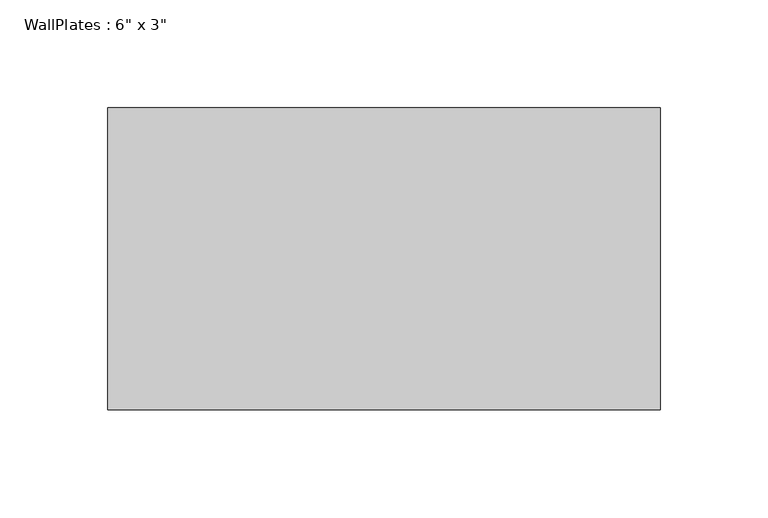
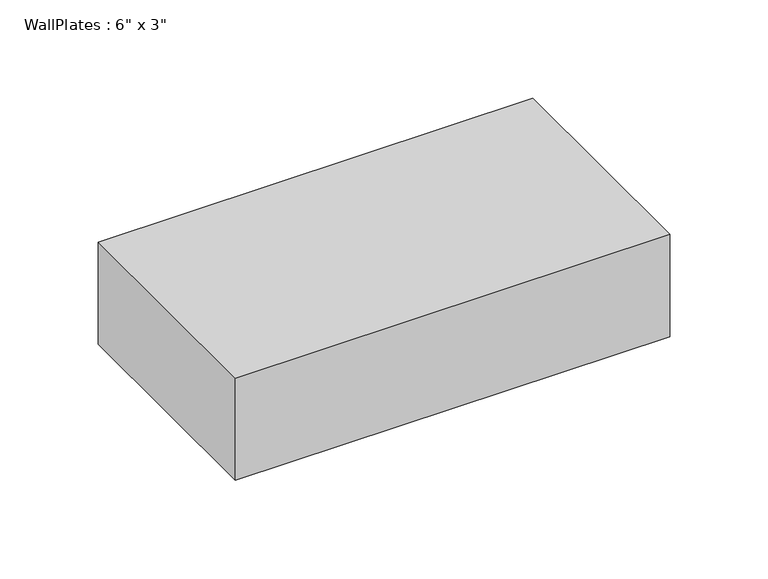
"""IFC4 building model written with IfcOpenShell, lengths in millimetres: beam geometry."""

import ifcopenshell
import ifcopenshell.guid

model = None  # the IFC model being written
_history = None  # IfcOwnerHistory: only IFC2X3 demands one
_inside = {}  # id of a spatial element -> (the spatial element, [elements in it])
_under = {}  # id of a project, library or spatial element -> (it, [spatial elements below it])
_declared = {}  # id of a project -> (the project, [libraries it declares])
_typed = {}  # id of a type object -> (the type object, [elements of that type])
_made_of = {}  # id of a material, layer set ... -> (it, [elements and type objects made of it])


def new_model(schema):
    """Start an empty IFC model of exactly this schema.

    Asked for "IFC4X3", IfcOpenShell would pick the latest addendum, in which some entities
    have other attributes; the version numbers below select the first issue.
    IFC2X3 requires an IfcOwnerHistory on every rooted entity: one is made here for all.
    """
    global model, _history
    if schema == "IFC4X3":
        model = ifcopenshell.file(schema_version=(4, 3, 0, 0))
    else:
        model = ifcopenshell.file(schema=schema)
    _inside.clear()
    _under.clear()
    _declared.clear()
    _typed.clear()
    _made_of.clear()
    _history = None
    if model.schema == "IFC2X3":
        org = make("IfcOrganization", Name="unknown")
        user = make(
            "IfcPersonAndOrganization",
            ThePerson=make("IfcPerson", FamilyName="unknown"),
            TheOrganization=org,
        )
        app = make(
            "IfcApplication",
            ApplicationDeveloper=org,
            Version="unknown",
            ApplicationFullName="unknown",
            ApplicationIdentifier="unknown",
        )
        _history = make(
            "IfcOwnerHistory",
            OwningUser=user,
            OwningApplication=app,
            ChangeAction="ADDED",
            CreationDate=0,
        )
    return model


def make(cls, **values):
    """One entity of the class cls with the attributes given. An attribute that is None is left unset."""
    return model.create_entity(
        cls, **{name: value for name, value in values.items() if value is not None}
    )


def rooted(cls, **values):
    """An entity with a GlobalId (a new one), such as an element, a storey or a relation."""
    return make(cls, GlobalId=ifcopenshell.guid.new(), OwnerHistory=_history, **values)


def si_unit(unit_type, name, prefix=None):
    """IfcSIUnit, for example si_unit("LENGTHUNIT", "METRE", prefix="MILLI")."""
    return make("IfcSIUnit", UnitType=unit_type, Prefix=prefix, Name=name)


def assignment(units):
    """IfcUnitAssignment: the units of a project."""
    return None if units is None else make("IfcUnitAssignment", Units=units)


def point(xyz):
    """IfcCartesianPoint."""
    return None if xyz is None else make("IfcCartesianPoint", Coordinates=xyz)


def direction(xyz):
    """IfcDirection."""
    return None if xyz is None else make("IfcDirection", DirectionRatios=xyz)


def frame(location, z_axis=None, x_axis=None):
    """IfcAxis2Placement3D, a coordinate frame: its origin and axes. An axis left out is left unset."""
    return make(
        "IfcAxis2Placement3D",
        Location=point(location),
        Axis=direction(z_axis),
        RefDirection=direction(x_axis),
    )


def origin():
    """The frame at (0, 0, 0) with its axes left unset."""
    return frame((0.0, 0.0, 0.0))


def place(relative_to, where):
    """IfcLocalPlacement: puts the frame where relative to a parent placement (None: the world)."""
    return make(
        "IfcLocalPlacement", PlacementRelTo=relative_to, RelativePlacement=where
    )


def context(
    kind, dimensions, precision=None, world=None, true_north=None, identifier=None
):
    """IfcGeometricRepresentationContext, for example the 3D "Model" context."""
    return make(
        "IfcGeometricRepresentationContext",
        ContextIdentifier=identifier,
        ContextType=kind,
        CoordinateSpaceDimension=dimensions,
        Precision=precision,
        WorldCoordinateSystem=world,
        TrueNorth=true_north,
    )


def project(units=None, contexts=None):
    """IfcProject with its units and contexts."""
    return rooted(
        "IfcProject",
        Name="project",
        RepresentationContexts=contexts,
        UnitsInContext=assignment(units),
    )


def spatial(cls, under=None, at=None, **own):
    """A site, building, storey or space (cls), placed at a placement, below another one or the project."""
    s = rooted(cls, ObjectPlacement=at, **own)
    if under is not None:
        _under.setdefault(under.id(), (under, []))[1].append(s)
    return s


def polyline(points):
    """IfcPolyline through the points."""
    return make("IfcPolyline", Points=[point(p) for p in points])


def outline(outer, holes=None, kind="AREA"):
    """IfcArbitraryClosedProfileDef: a profile drawn as a closed curve; with holes, ...WithVoids."""
    if holes is None:
        return make("IfcArbitraryClosedProfileDef", ProfileType=kind, OuterCurve=outer)
    return make(
        "IfcArbitraryProfileDefWithVoids",
        ProfileType=kind,
        OuterCurve=outer,
        InnerCurves=holes,
    )


def extrude(swept, where, along, depth):
    """IfcExtrudedAreaSolid: the profile swept, set in the frame where, extruded along a direction by depth."""
    return make(
        "IfcExtrudedAreaSolid",
        SweptArea=swept,
        Position=where,
        ExtrudedDirection=direction(along),
        Depth=depth,
    )


def shape(context_of_items, identifier, shape_type, items):
    """IfcShapeRepresentation: the items that make up one representation, for example the "Body"."""
    return make(
        "IfcShapeRepresentation",
        ContextOfItems=context_of_items,
        RepresentationIdentifier=identifier,
        RepresentationType=shape_type,
        Items=items,
    )


def source(mapping_origin, context_of_items, identifier, shape_type, items):
    """IfcRepresentationMap: a shape defined once, which mapped items show again and again."""
    return make(
        "IfcRepresentationMap",
        MappingOrigin=mapping_origin,
        MappedRepresentation=shape(context_of_items, identifier, shape_type, items),
    )


def transform(
    local_origin,
    x_axis=None,
    y_axis=None,
    z_axis=None,
    scale=None,
    scale2=None,
    scale3=None,
    uniform=True,
):
    """IfcCartesianTransformationOperator3D, or its non-uniform kind. x_axis, y_axis, z_axis: its Axis1, 2, 3."""
    if uniform:
        return make(
            "IfcCartesianTransformationOperator3D",
            Axis1=direction(x_axis),
            Axis2=direction(y_axis),
            LocalOrigin=point(local_origin),
            Scale=scale,
            Axis3=direction(z_axis),
        )
    return make(
        "IfcCartesianTransformationOperator3DnonUniform",
        Axis1=direction(x_axis),
        Axis2=direction(y_axis),
        LocalOrigin=point(local_origin),
        Scale=scale,
        Axis3=direction(z_axis),
        Scale2=scale2,
        Scale3=scale3,
    )


def mapped(mapping_source, mapping_target):
    """IfcMappedItem: shows the shape of a source again, moved by a transform."""
    return make(
        "IfcMappedItem", MappingSource=mapping_source, MappingTarget=mapping_target
    )


def made_of(thing, what):
    """Note that an element or type object is made of a material, layer set ...; save() writes the relation."""
    if what is not None:
        _made_of.setdefault(what.id(), (what, []))[1].append(thing)
    return thing


def element(
    cls,
    number,
    at=None,
    inside=None,
    cuts=None,
    type_object=None,
    material=None,
    context=None,
    identifier="Body",
    shape_type=None,
    held_by="IfcProductDefinitionShape",
    body=None,
    shapes=None,
    **own,
):
    """One element of the class cls, such as IfcWall. Its Tag is "e" and its number.

    at: its placement. inside: the storey or other place that contains it. cuts: it is an
    opening in that element (IfcRelVoidsElement). A single representation is given by context,
    identifier, shape_type and body (its items); several are given by shapes. held_by: the class
    of the entity that holds the representations. save() writes the other relations.
    """
    e = rooted(cls, Tag="e%d" % number, ObjectPlacement=at, **own)
    if body is not None:
        shapes = [shape(context, identifier, shape_type, body)]
    if shapes is not None:
        e.Representation = make(held_by, Representations=shapes)
    if inside is not None:
        _inside.setdefault(inside.id(), (inside, []))[1].append(e)
    if cuts is not None:
        rooted(
            "IfcRelVoidsElement", RelatingBuildingElement=cuts, RelatedOpeningElement=e
        )
    if type_object is not None:
        _typed.setdefault(type_object.id(), (type_object, []))[1].append(e)
    return made_of(e, material)


def aggregate(whole, parts):
    """IfcRelAggregates: a whole, such as a stair, and the parts it consists of."""
    return rooted("IfcRelAggregates", RelatingObject=whole, RelatedObjects=parts)


def save(model, path):
    """Write the relations noted so far, then the file.

    IfcRelAggregates (storeys below a building ...), IfcRelContainedInSpatialStructure (elements
    in a storey), IfcRelDefinesByType, IfcRelAssociatesMaterial and IfcRelDeclares: one each for
    every whole, place, type object, material and project.
    """
    for whole, parts in _under.values():
        aggregate(whole, parts)
    for where, things in _inside.values():
        rooted(
            "IfcRelContainedInSpatialStructure",
            RelatedElements=things,
            RelatingStructure=where,
        )
    for kind, things in _typed.values():
        rooted("IfcRelDefinesByType", RelatedObjects=things, RelatingType=kind)
    for what, things in _made_of.values():
        rooted("IfcRelAssociatesMaterial", RelatedObjects=things, RelatingMaterial=what)
    for by, libraries in _declared.values():
        rooted("IfcRelDeclares", RelatingContext=by, RelatedDefinitions=libraries)
    model.write(path)


def beam_1c807b94(model_context):
    return source(origin(), model_context, "Body", "SweptSolid", [
        extrude(outline(polyline([(-127.7935703, -69.85), (-127.7935703, 69.85), (127.7935703, 69.85), (127.7935703, -69.85), (-127.7935703, -69.85)])), frame((0.0, 0.0, -31.75), z_axis=(0.0, 0.0, 1.0), x_axis=(1.0, 0.0, 0.0)), (0.0, 0.0, 1.0), 63.5),
    ])


if __name__ == "__main__":
    model = new_model("IFC4")
    model_context = context("Model", 3, world=origin())
    ifc_project = project(units=[si_unit("LENGTHUNIT", "METRE", prefix="MILLI")], contexts=[model_context])
    site = spatial("IfcSite", under=ifc_project)
    building = spatial("IfcBuilding", under=site)
    placement = place(None, origin())
    beam_shape = beam_1c807b94(model_context)
    element("IfcBeam", 1, ObjectType="WallPlates : 6\" x 3\"", at=placement, inside=building, context=model_context, shape_type="MappedRepresentation", body=[
        mapped(beam_shape, transform((0.0, 0.0, 0.0), x_axis=(1.0, 0.0, 0.0), y_axis=(0.0, 1.0, 0.0), z_axis=(0.0, 0.0, 1.0))),
    ])
    save(model, "model.ifc")
